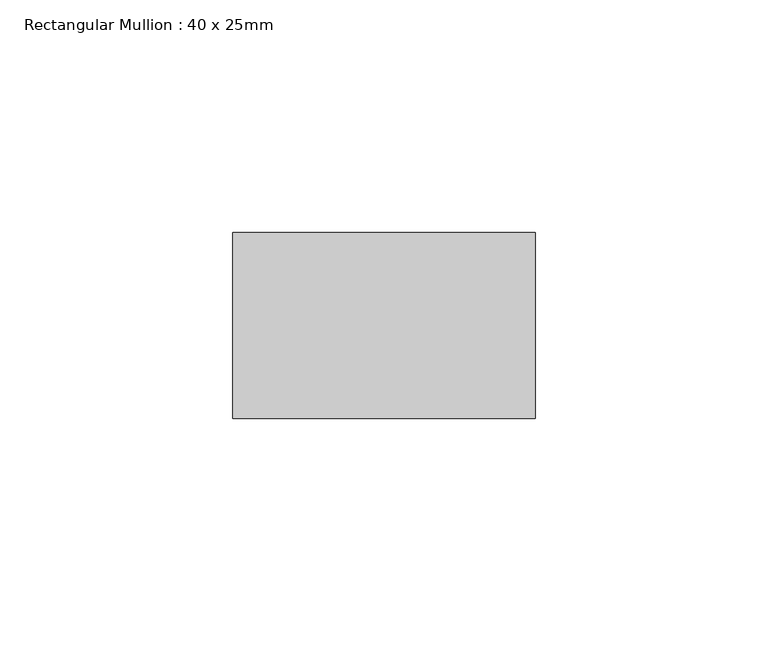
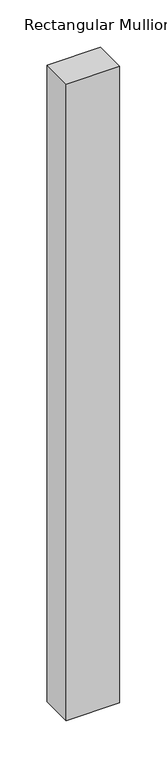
"""IFC4 building model written with IfcOpenShell, lengths in millimetres: member geometry, Rectangular Mullion : 40 x 25mm."""

from ifc_helpers import new_model, si_unit, frame, origin, place, context, project, spatial, polyline, outline, extrude, source, transform, mapped, element, save


def rectangular_mullion_40_x_25mm_d0d90860(model_context):
    return source(origin(), model_context, "Body", "SweptSolid", [
        extrude(outline(polyline([(0.0, -20.0), (0.0, -60.0), (-65.0, -60.0), (-65.0, -20.0), (0.0, -20.0)])), frame((0.0, 0.0, -818.1089177), z_axis=(0.0, 0.0, 1.0), x_axis=(1.0, 0.0, 0.0)), (0.0, 0.0, 1.0), 818.1089177),
    ])


if __name__ == "__main__":
    model = new_model("IFC4")
    model_context = context("Model", 3, world=origin())
    ifc_project = project(units=[si_unit("LENGTHUNIT", "METRE", prefix="MILLI")], contexts=[model_context])
    site = spatial("IfcSite", under=ifc_project)
    building = spatial("IfcBuilding", under=site)
    placement = place(None, origin())
    rectangular_mullion_40_x_25mm_shape = rectangular_mullion_40_x_25mm_d0d90860(model_context)
    element("IfcMember", 1, ObjectType="Rectangular Mullion : 40 x 25mm", at=placement, inside=building, context=model_context, shape_type="MappedRepresentation", body=[
        mapped(rectangular_mullion_40_x_25mm_shape, transform((0.0, 0.0, 0.0), x_axis=(1.0, 0.0, 0.0), y_axis=(0.0, 1.0, 0.0), z_axis=(0.0, 0.0, 1.0))),
    ])
    save(model, "model.ifc")
